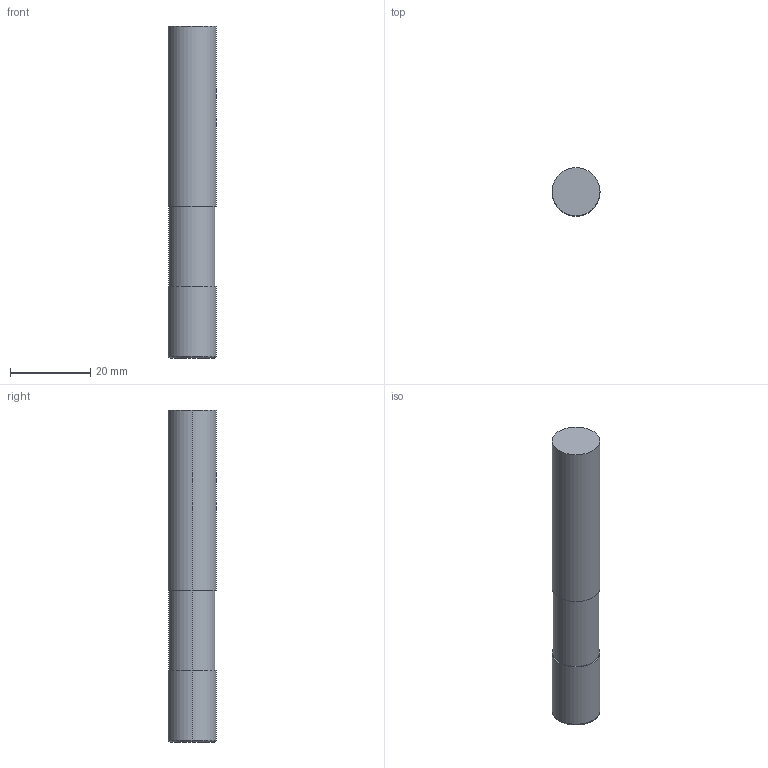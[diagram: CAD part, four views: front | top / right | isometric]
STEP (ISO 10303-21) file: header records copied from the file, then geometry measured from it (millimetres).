
FILE_DESCRIPTION(('STEP AP214'),'1');
FILE_NAME('cctmp_CBAF5648-A567-4AFC-B565-2BD135ABCE0B_2020_10_01_07_21_52_0220..stp','2020-10-01T05:21:52',('Meusburger Georg GmbH & Co KG'),('CADClick - www.CADClick.com'),'Spatial InterOp 3D',' ','unknown authorization');
FILE_SCHEMA(('AUTOMOTIVE_DESIGN { 1 0 10303 214 1 1 1 1 }'));
Length unit declared in the file: millimetre
Products named in the file (1): WZF17576_12_0.5
Bounding box: 12 x 12 x 83 mm (x, y, z)
Volume: 9200.5 mm3; surface area: 3334.1 mm2
Topology: 1 solids, 1 shells, 12 faces, 22 edges, 14 vertices
Faces by surface type: cylinder 6, plane 4, torus 2
Entity records: 426 total; most frequent: DIRECTION 64, CARTESIAN_POINT 49, ORIENTED_EDGE 44, AXIS2_PLACEMENT_3D 29, EDGE_CURVE 22, CIRCLE 16, EDGE_LOOP 14, VERTEX_POINT 14
